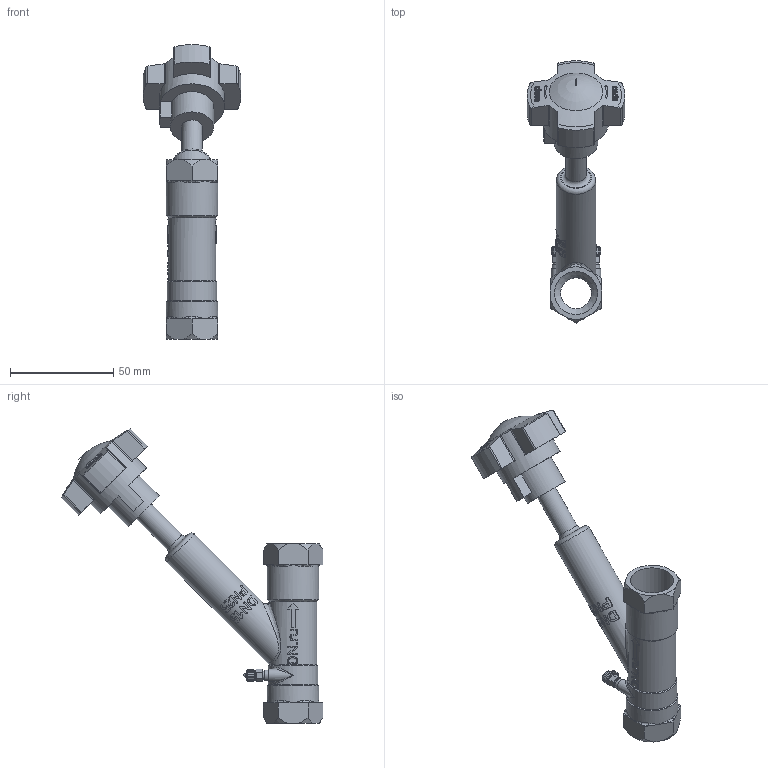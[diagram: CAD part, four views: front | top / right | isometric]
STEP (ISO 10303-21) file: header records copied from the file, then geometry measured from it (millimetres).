
FILE_DESCRIPTION(('STEP AP242'), '1');
FILE_NAME('VB0000P-T Êëàïàí áàëàíñèðîâî÷íûé DN.ru DN15 PN25', '2026-04-26T17:56:37', ('R2D2'), (''), 'C3D Converter', 'C3D Toolkit', '');
FILE_SCHEMA(('AP242_MANAGED_MODEL_BASED_3D_ENGINEERING_MIM_LF { 1 0 10303 442 1 1 4 }'));
Length unit declared in the file: millimetre
Products named in the file (1): VB0000P-T
Bounding box: 47.48 x 126.96 x 142.96 mm (x, y, z)
Volume: 67801.6 mm3; surface area: 24077.2 mm2
Topology: 1 solids, 2 shells, 743 faces, 2039 edges, 1318 vertices
Faces by surface type: plane 314, extrusion 263, cylinder 78, bspline 32, cone 22, revolution 17, torus 15, sphere 2
Full cylindrical faces by diameter (mm): 2 x2, 4 x6, 5 x2, 6 x2, 10 x1, 15 x1, 16 x1, 19 x1, 20.95 x2, 21 x1, 24 x1, 25 x2, 31.5 x1
Entity records: 46611 total; most frequent: CARTESIAN_POINT 23824, ORIENTED_EDGE 3948, DIRECTION 2451, EDGE_CURVE 1974, VERTEX_POINT 1315, VECTOR 1112, B_SPLINE_CURVE_WITH_KNOTS 1032, LINE 849
